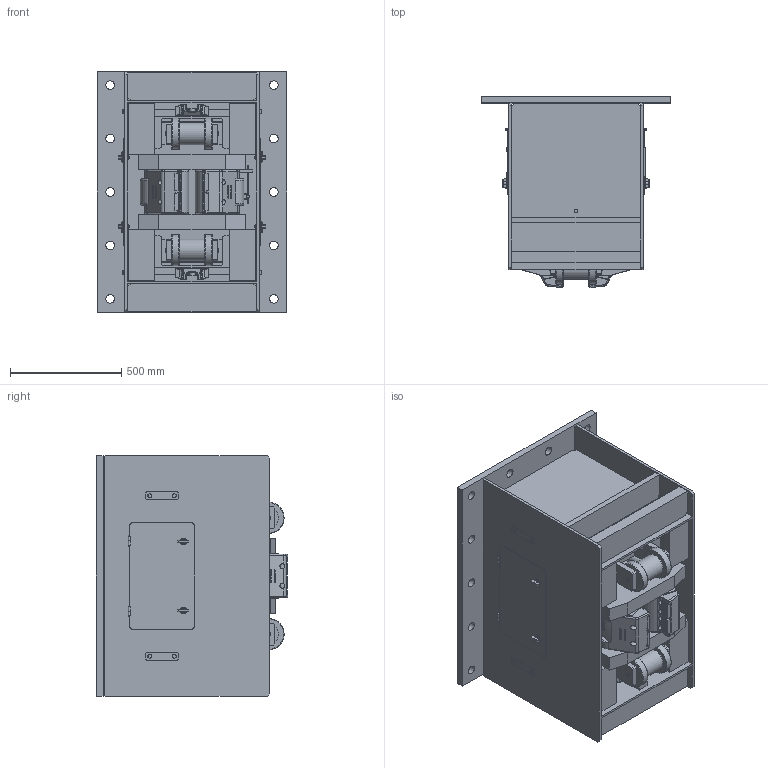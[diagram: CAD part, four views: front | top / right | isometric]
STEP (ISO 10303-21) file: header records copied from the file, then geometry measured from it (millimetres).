
FILE_DESCRIPTION(/* description */ (''),/* implementation_level */ '2;1');
FILE_NAME(/* name */ 'C:\Vault_Workspace\HILLMAR\HILLMAR PRODUCTION\02 STORM BRAKES\0100-2\01002087 CXHV-LH-300-600-RP\SM3D-CXHV-LH-300-600\47506.stp',/* time_stamp */ '2016-10-24T11:27:58+02:00',/* author */ ('vlakrc01'),/* organization */ (''),/* preprocessor_version */ 'ST-DEVELOPER v16.1',/* originating_system */ 'Autodesk Inventor 2016',/* authorisation */ '');
FILE_SCHEMA (('AUTOMOTIVE_DESIGN { 1 0 10303 214 3 1 1 }'));
Products named in the file (1): 47506
Bounding box: 850 x 859.26 x 1080 mm (x, y, z)
Volume: 124939175.2 mm3; surface area: 11278890.3 mm2
Topology: 15 solids, 15 shells, 3780 faces, 10124 edges, 6413 vertices
Faces by surface type: plane 1959, cylinder 751, bspline 638, cone 196, torus 130, sphere 106
Full cylindrical faces by diameter (mm): 3 x1, 5.5 x4, 7 x1, 9.188 x4, 9.8 x4, 10.109 x4, 12 x4, 15.4 x4, 16 x2, 18 x4, 21.031 x4, 22.4 x4, 24 x4, 25 x4, 30 x4, 39 x14, 47.75 x4, 50.8 x8, 90 x4, 100 x2, 140 x4, 150 x2
Entity records: 137649 total; most frequent: CARTESIAN_POINT 44589, ORIENTED_EDGE 19670, DIRECTION 16958, EDGE_CURVE 9835, VERTEX_POINT 6349, AXIS2_PLACEMENT_3D 5743, LINE 5472, VECTOR 5472
